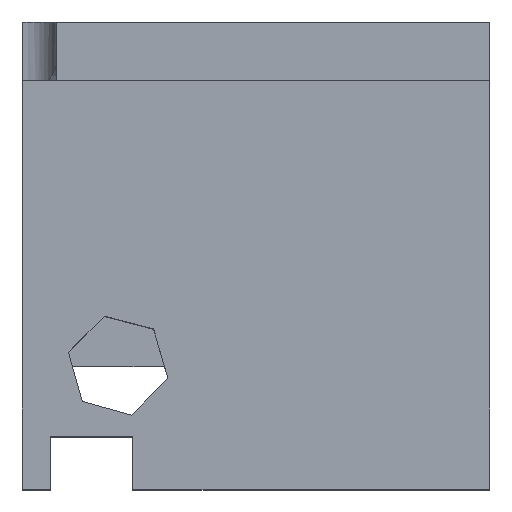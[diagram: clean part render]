
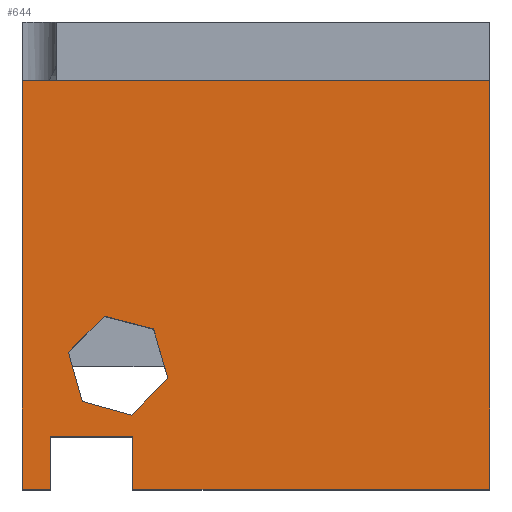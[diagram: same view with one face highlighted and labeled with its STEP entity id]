
A CAD part, top view. The second image highlights one B-rep face of the part: STEP entity #644.
In plain terms, the highlighted planar face has unit normal (0, 0, 1).
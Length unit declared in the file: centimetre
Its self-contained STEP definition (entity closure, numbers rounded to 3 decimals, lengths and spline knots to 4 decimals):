
#6 = VECTOR ( 'NONE', #1256, 100. ) ;
#14 = CARTESIAN_POINT ( 'NONE',  ( 1000., 0., 1000. ) ) ;
#28 = VECTOR ( 'NONE', #873, 100. ) ;
#44 = ORIENTED_EDGE ( 'NONE', *, *, #1077, .T. ) ;
#72 = CARTESIAN_POINT ( 'NONE',  ( 175.6005, 370.2179, 1000. ) ) ;
#78 = DIRECTION ( 'NONE',  ( 0.271, -0.963, 0. ) ) ;
#80 = VECTOR ( 'NONE', #1022, 100. ) ;
#82 = CARTESIAN_POINT ( 'NONE',  ( 280.89, 342.9318, 1000. ) ) ;
#92 = CARTESIAN_POINT ( 'NONE',  ( 60.0959, 113.1591, 1000. ) ) ;
#93 = EDGE_CURVE ( 'NONE', #1194, #1421, #875, .T. ) ;
#121 = EDGE_CURVE ( 'NONE', #439, #340, #981, .T. ) ;
#162 = VERTEX_POINT ( 'NONE', #815 ) ;
#179 = ORIENTED_EDGE ( 'NONE', *, *, #121, .T. ) ;
#198 = ORIENTED_EDGE ( 'NONE', *, *, #1362, .T. ) ;
#200 = CARTESIAN_POINT ( 'NONE',  ( 0., 1000., 1000. ) ) ;
#203 = FACE_BOUND ( 'NONE', #939, .T. ) ;
#219 = LINE ( 'NONE', #1078, #28 ) ;
#228 = ORIENTED_EDGE ( 'NONE', *, *, #299, .F. ) ;
#236 = VERTEX_POINT ( 'NONE', #14 ) ;
#253 = DIRECTION ( 'NONE',  ( 0.707, 0.707, 0. ) ) ;
#268 = CARTESIAN_POINT ( 'NONE',  ( 1000., 874.9716, 1000. ) ) ;
#297 = CARTESIAN_POINT ( 'NONE',  ( 233.629, 158.4066, 1000. ) ) ;
#299 = EDGE_CURVE ( 'NONE', #1344, #1160, #373, .T. ) ;
#307 = VECTOR ( 'NONE', #1084, 100. ) ;
#338 = CARTESIAN_POINT ( 'NONE',  ( 0., 0., 1000. ) ) ;
#340 = VERTEX_POINT ( 'NONE', #1291 ) ;
#351 = ORIENTED_EDGE ( 'NONE', *, *, #542, .F. ) ;
#359 = VECTOR ( 'NONE', #78, 100. ) ;
#361 = VERTEX_POINT ( 'NONE', #72 ) ;
#372 = CARTESIAN_POINT ( 'NONE',  ( 60.0959, 113.1591, 1000. ) ) ;
#373 = LINE ( 'NONE', #1005, #655 ) ;
#378 = CARTESIAN_POINT ( 'NONE',  ( 0., 0., 1000. ) ) ;
#385 = CARTESIAN_POINT ( 'NONE',  ( 128.3395, 187.8511, 1000. ) ) ;
#437 = CARTESIAN_POINT ( 'NONE',  ( 236.466, 0., 1000. ) ) ;
#439 = VERTEX_POINT ( 'NONE', #615 ) ;
#477 = CARTESIAN_POINT ( 'NONE',  ( 311.616, 236.3936, 1000. ) ) ;
#484 = ORIENTED_EDGE ( 'NONE', *, *, #853, .T. ) ;
#495 = ORIENTED_EDGE ( 'NONE', *, *, #1334, .T. ) ;
#503 = ORIENTED_EDGE ( 'NONE', *, *, #919, .F. ) ;
#530 = LINE ( 'NONE', #977, #359 ) ;
#542 = EDGE_CURVE ( 'NONE', #1160, #361, #1329, .T. ) ;
#544 = DIRECTION ( 'NONE',  ( 0., 0., 1. ) ) ;
#562 = CARTESIAN_POINT ( 'NONE',  ( 0., 0., 1000. ) ) ;
#575 = ORIENTED_EDGE ( 'NONE', *, *, #971, .T. ) ;
#591 = LINE ( 'NONE', #268, #6 ) ;
#597 = LINE ( 'NONE', #1236, #1100 ) ;
#615 = CARTESIAN_POINT ( 'NONE',  ( 236.466, 113.1591, 1000. ) ) ;
#622 = DIRECTION ( 'NONE',  ( -0.277, 0.961, 0. ) ) ;
#624 = CARTESIAN_POINT ( 'NONE',  ( 280.89, 342.9318, 1000. ) ) ;
#644 = ADVANCED_FACE ( 'NONE', ( #1199, #203 ), #647, .T. ) ;
#647 = PLANE ( 'NONE',  #982 ) ;
#655 = VECTOR ( 'NONE', #622, 100. ) ;
#663 = DIRECTION ( 'NONE',  ( 1., 0., 0. ) ) ;
#670 = ORIENTED_EDGE ( 'NONE', *, *, #806, .F. ) ;
#673 = LINE ( 'NONE', #1218, #1145 ) ;
#696 = CARTESIAN_POINT ( 'NONE',  ( 98.6927, 293.3101, 1000. ) ) ;
#709 = EDGE_CURVE ( 'NONE', #1240, #781, #219, .T. ) ;
#735 = VECTOR ( 'NONE', #253, 100. ) ;
#752 = DIRECTION ( 'NONE',  ( -0.968, 0.251, 0. ) ) ;
#781 = VERTEX_POINT ( 'NONE', #297 ) ;
#789 = ORIENTED_EDGE ( 'NONE', *, *, #1295, .F. ) ;
#806 = EDGE_CURVE ( 'NONE', #1090, #1240, #530, .T. ) ;
#807 = LINE ( 'NONE', #1029, #735 ) ;
#815 = CARTESIAN_POINT ( 'NONE',  ( 1000., 874.9716, 1000. ) ) ;
#820 = DIRECTION ( 'NONE',  ( 1., 0., 0. ) ) ;
#853 = EDGE_CURVE ( 'NONE', #1175, #912, #858, .T. ) ;
#858 = LINE ( 'NONE', #200, #307 ) ;
#873 = DIRECTION ( 'NONE',  ( 0.963, -0.269, 0. ) ) ;
#875 = LINE ( 'NONE', #1321, #906 ) ;
#888 = DIRECTION ( 'NONE',  ( -0.707, -0.707, 0. ) ) ;
#896 = LINE ( 'NONE', #372, #80 ) ;
#904 = CARTESIAN_POINT ( 'NONE',  ( 175.6005, 370.2179, 1000. ) ) ;
#906 = VECTOR ( 'NONE', #1095, 100. ) ;
#912 = VERTEX_POINT ( 'NONE', #562 ) ;
#919 = EDGE_CURVE ( 'NONE', #361, #1090, #1430, .T. ) ;
#939 = EDGE_LOOP ( 'NONE', ( #228, #789, #1083, #670, #503, #351 ) ) ;
#971 = EDGE_CURVE ( 'NONE', #912, #1194, #673, .T. ) ;
#977 = CARTESIAN_POINT ( 'NONE',  ( 98.6927, 293.3101, 1000. ) ) ;
#981 = LINE ( 'NONE', #437, #1068 ) ;
#982 = AXIS2_PLACEMENT_3D ( 'NONE', #338, #544, #663 ) ;
#994 = ORIENTED_EDGE ( 'NONE', *, *, #1379, .T. ) ;
#1005 = CARTESIAN_POINT ( 'NONE',  ( 311.616, 236.3936, 1000. ) ) ;
#1022 = DIRECTION ( 'NONE',  ( 1., 0., 0. ) ) ;
#1029 = CARTESIAN_POINT ( 'NONE',  ( 233.629, 158.4066, 1000. ) ) ;
#1065 = VECTOR ( 'NONE', #888, 100. ) ;
#1068 = VECTOR ( 'NONE', #1415, 100. ) ;
#1077 = EDGE_CURVE ( 'NONE', #162, #1175, #591, .T. ) ;
#1078 = CARTESIAN_POINT ( 'NONE',  ( 128.3395, 187.8511, 1000. ) ) ;
#1083 = ORIENTED_EDGE ( 'NONE', *, *, #709, .F. ) ;
#1084 = DIRECTION ( 'NONE',  ( 0., -1., 0. ) ) ;
#1090 = VERTEX_POINT ( 'NONE', #696 ) ;
#1095 = DIRECTION ( 'NONE',  ( 0., 1., 0. ) ) ;
#1100 = VECTOR ( 'NONE', #1339, 100. ) ;
#1115 = EDGE_LOOP ( 'NONE', ( #44, #484, #575, #1231, #495, #179, #994, #198 ) ) ;
#1116 = DIRECTION ( 'NONE',  ( 1., 0., 0. ) ) ;
#1127 = CARTESIAN_POINT ( 'NONE',  ( 60.0959, 0., 1000. ) ) ;
#1145 = VECTOR ( 'NONE', #1116, 100. ) ;
#1160 = VERTEX_POINT ( 'NONE', #624 ) ;
#1175 = VERTEX_POINT ( 'NONE', #1237 ) ;
#1194 = VERTEX_POINT ( 'NONE', #1127 ) ;
#1199 = FACE_OUTER_BOUND ( 'NONE', #1115, .T. ) ;
#1218 = CARTESIAN_POINT ( 'NONE',  ( 0., 0., 1000. ) ) ;
#1231 = ORIENTED_EDGE ( 'NONE', *, *, #93, .T. ) ;
#1236 = CARTESIAN_POINT ( 'NONE',  ( 1000., 1000., 1000. ) ) ;
#1237 = CARTESIAN_POINT ( 'NONE',  ( 0., 874.9716, 1000. ) ) ;
#1240 = VERTEX_POINT ( 'NONE', #385 ) ;
#1256 = DIRECTION ( 'NONE',  ( -1., 0., 0. ) ) ;
#1291 = CARTESIAN_POINT ( 'NONE',  ( 236.466, 0., 1000. ) ) ;
#1295 = EDGE_CURVE ( 'NONE', #781, #1344, #807, .T. ) ;
#1321 = CARTESIAN_POINT ( 'NONE',  ( 60.0959, 0., 1000. ) ) ;
#1329 = LINE ( 'NONE', #82, #1371 ) ;
#1334 = EDGE_CURVE ( 'NONE', #1421, #439, #896, .T. ) ;
#1339 = DIRECTION ( 'NONE',  ( 0., 1., 0. ) ) ;
#1344 = VERTEX_POINT ( 'NONE', #477 ) ;
#1362 = EDGE_CURVE ( 'NONE', #236, #162, #597, .T. ) ;
#1368 = LINE ( 'NONE', #378, #1418 ) ;
#1371 = VECTOR ( 'NONE', #752, 100. ) ;
#1379 = EDGE_CURVE ( 'NONE', #340, #236, #1368, .T. ) ;
#1415 = DIRECTION ( 'NONE',  ( 0., -1., 0. ) ) ;
#1418 = VECTOR ( 'NONE', #820, 100. ) ;
#1421 = VERTEX_POINT ( 'NONE', #92 ) ;
#1430 = LINE ( 'NONE', #904, #1065 ) ;
